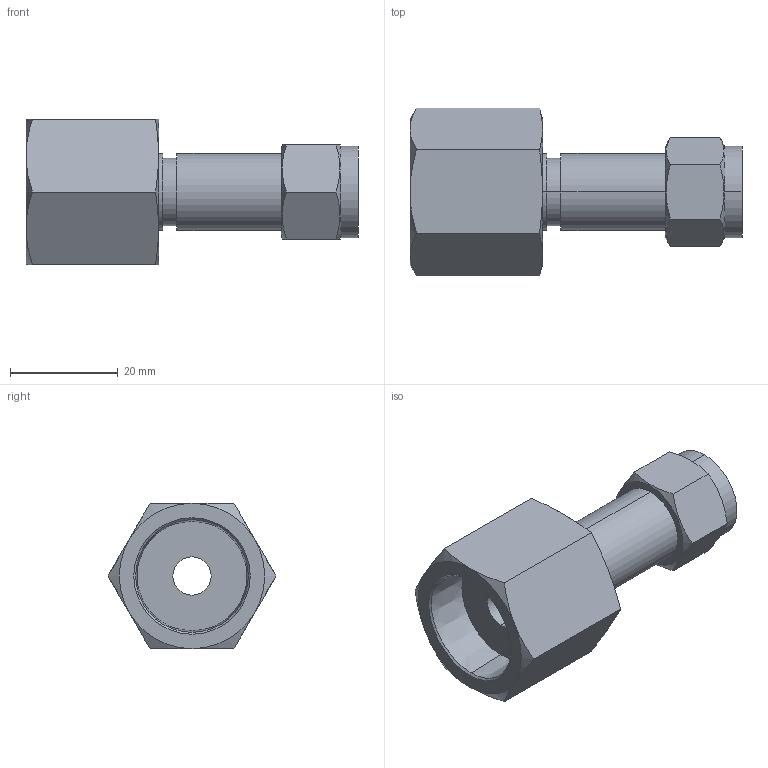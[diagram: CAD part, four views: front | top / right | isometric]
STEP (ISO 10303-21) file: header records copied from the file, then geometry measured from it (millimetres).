
FILE_DESCRIPTION (( 'STEP AP203' ), '1' );
FILE_NAME ('DSS06-08 SS.STEP', '2009-09-08T09:15:39', ( ' ' ), ( '' ), 'SwSTEP 2.0', 'SolidWorks 2008', '' );
FILE_SCHEMA (( 'CONFIG_CONTROL_DESIGN' ));
Length unit declared in the file: millimetre
Products named in the file (1): DSS06-08 SS
Bounding box: 61.6 x 31.17 x 26.99 mm (x, y, z)
Volume: 17273.3 mm3; surface area: 7346.2 mm2
Topology: 1 solids, 1 shells, 52 faces, 116 edges, 72 vertices
Faces by surface type: cone 20, plane 20, cylinder 12
Entity records: 1709 total; most frequent: CARTESIAN_POINT 513, ORIENTED_EDGE 232, DIRECTION 226, EDGE_CURVE 116, AXIS2_PLACEMENT_3D 97, VERTEX_POINT 72, EDGE_LOOP 60, ADVANCED_FACE 52
